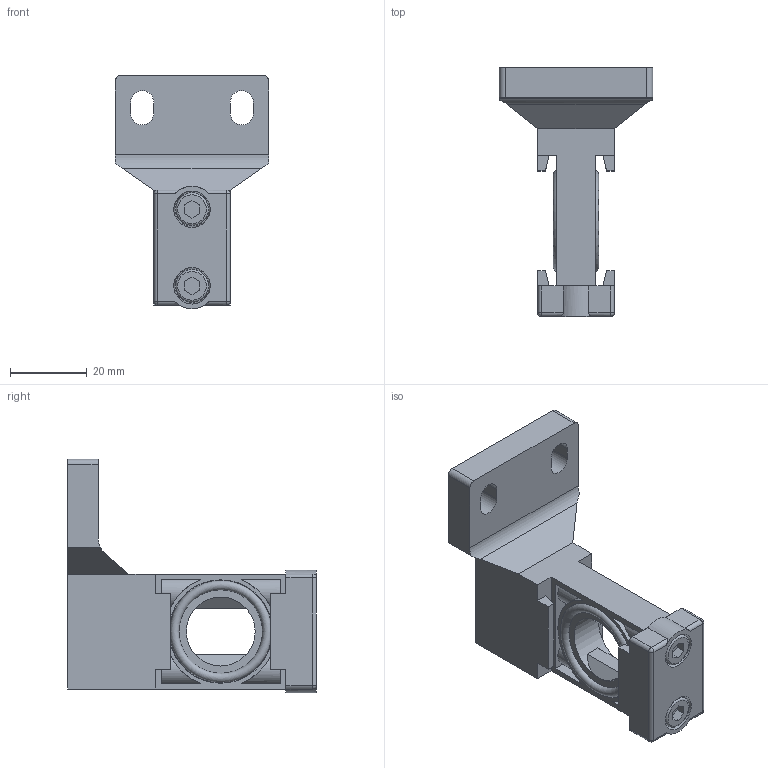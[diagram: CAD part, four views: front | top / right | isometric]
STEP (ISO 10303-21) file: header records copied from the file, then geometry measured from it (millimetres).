
FILE_DESCRIPTION( ( 'Unknown' ), '1' );
FILE_NAME( 'Y:/0-PLM共用區/支架組/BL-MACP403/22024010001000122.stp', 'Unknown', ( 'Unknown' ), ( 'Unknown' ), 'PSStep 15.0.49', 'Unknown', ' ' );
FILE_SCHEMA( ( 'AUTOMOTIVE_DESIGN { 1 0 10303 214 1 1 1 1 }' ) );
Length unit declared in the file: millimetre
Products named in the file (3): 1
Bounding box: 40 x 65 x 61 mm (x, y, z)
Volume: 27628.7 mm3; surface area: 18781.2 mm2
Topology: 3 solids, 6 shells, 203 faces, 495 edges, 315 vertices
Faces by surface type: plane 138, cylinder 48, cone 7, torus 6, sphere 4
Full cylindrical faces by diameter (mm): 4.2 x2, 5 x2, 5.5 x2, 8.5 x2, 21.8 x2, 27 x2
Entity records: 7663 total; most frequent: CARTESIAN_POINT 1352, DIRECTION 957, ORIENTED_EDGE 908, EDGE_CURVE 454, LINE 331, VECTOR 331, AXIS2_PLACEMENT_3D 313, VERTEX_POINT 306
